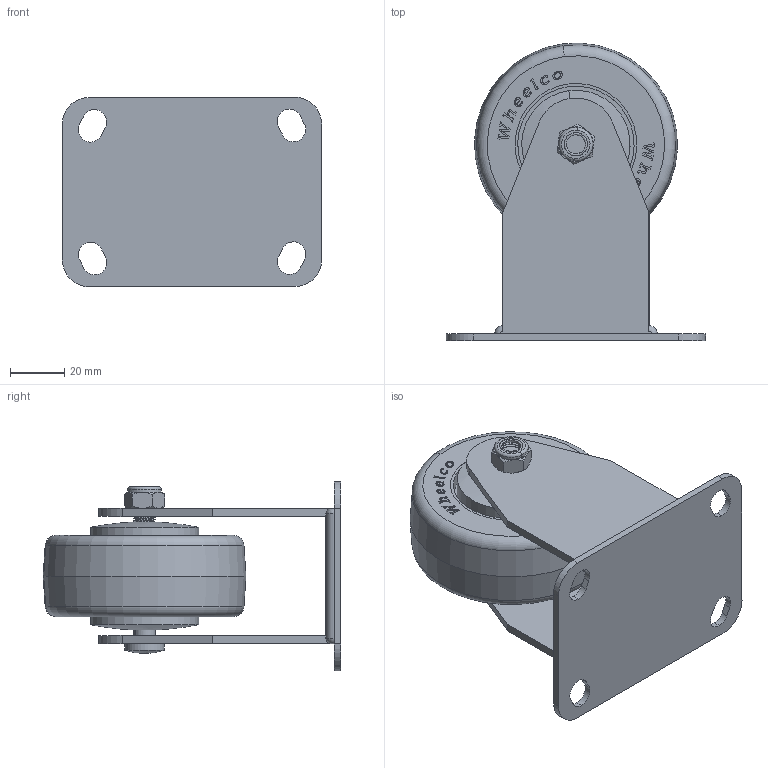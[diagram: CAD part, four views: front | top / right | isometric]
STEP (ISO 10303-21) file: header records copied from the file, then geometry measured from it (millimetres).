
FILE_DESCRIPTION (( 'STEP AP214' ), '1' );
FILE_NAME ('WCB75-F.step', '2024-01-12T00:40:24', ( '' ), ( '' ), 'SwSTEP 2.0', 'SolidWorks 2022', '' );
FILE_SCHEMA (( 'AUTOMOTIVE_DESIGN' ));
Length unit declared in the file: millimetre
Products named in the file (5): WCB75; M8Nyloc; WC75-F Fork; WCB75-F; WC-M8x55
Assembly tree (4 placements, depth 2):
  WCB75-F
    WCB75
    WC-M8x55
    M8Nyloc
    WC75-F Fork
Bounding box: 95.91 x 109.96 x 70.14 mm (x, y, z)
Volume: 184397.3 mm3; surface area: 52505.2 mm2
Topology: 4 solids, 4 shells, 785 faces, 2135 edges, 1415 vertices
Faces by surface type: plane 415, bspline 252, cylinder 83, cone 18, torus 12, sphere 5
Entity records: 41391 total; most frequent: CARTESIAN_POINT 23000, ORIENTED_EDGE 4264, DIRECTION 2768, EDGE_CURVE 2132, VERTEX_POINT 1413, LINE 1384, VECTOR 1384, EDGE_LOOP 859
